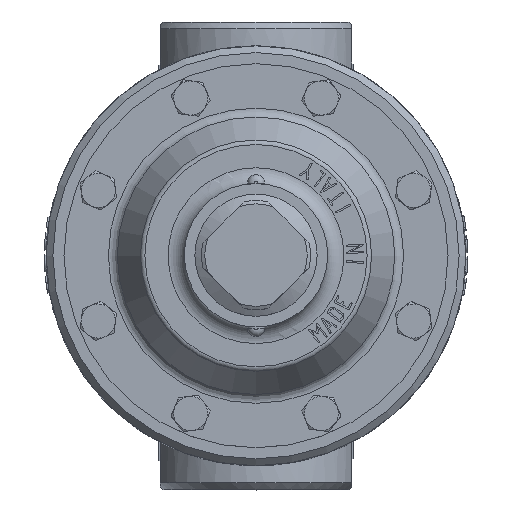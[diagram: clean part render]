
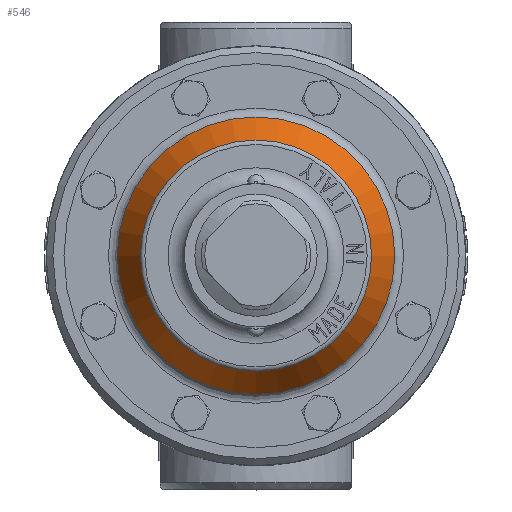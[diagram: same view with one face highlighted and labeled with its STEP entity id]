
A CAD part, top view. The second image highlights one B-rep face of the part: STEP entity #546.
In plain terms, the highlighted conical face has half-angle 30 degrees and reference radius 37.242 mm.
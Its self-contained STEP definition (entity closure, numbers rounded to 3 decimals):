
#546=ADVANCED_FACE('',(#4487,#4489),#4491,.T.);
#4487=FACE_OUTER_BOUND('',#4488,.T.);
#4488=EDGE_LOOP('',(#11511));
#4489=FACE_OUTER_BOUND('',#4490,.T.);
#4490=EDGE_LOOP('',(#11512));
#4491=CONICAL_SURFACE('',#4492,37.242,0.524);
#4492=AXIS2_PLACEMENT_3D('',#4493,#4494,#4495);
#4493=CARTESIAN_POINT('',(0.,0.,49.875));
#4494=DIRECTION('',(0.,0.,-1.));
#4495=DIRECTION('',(0.,-1.,0.));
#11511=ORIENTED_EDGE('',*,*,#16055,.T.);
#11512=ORIENTED_EDGE('',*,*,#16138,.F.);
#16055=EDGE_CURVE('',#19682,#19682,#19683,.T.);
#16138=EDGE_CURVE('',#19791,#19791,#19792,.T.);
#19682=VERTEX_POINT('',#38423);
#19683=CIRCLE('',#38424,40.634);
#19791=VERTEX_POINT('',#39009);
#19792=CIRCLE('',#39010,33.85);
#38423=CARTESIAN_POINT('',(0.,40.634,44.));
#38424=AXIS2_PLACEMENT_3D('',#38425,#38426,#38427);
#38425=CARTESIAN_POINT('',(0.,0.,44.));
#38426=DIRECTION('',(0.,0.,1.));
#38427=DIRECTION('',(0.,1.,0.));
#39009=CARTESIAN_POINT('',(0.,33.85,55.75));
#39010=AXIS2_PLACEMENT_3D('',#39011,#39012,#39013);
#39011=CARTESIAN_POINT('',(0.,0.,55.75));
#39012=DIRECTION('',(0.,0.,1.));
#39013=DIRECTION('',(0.,1.,0.));
